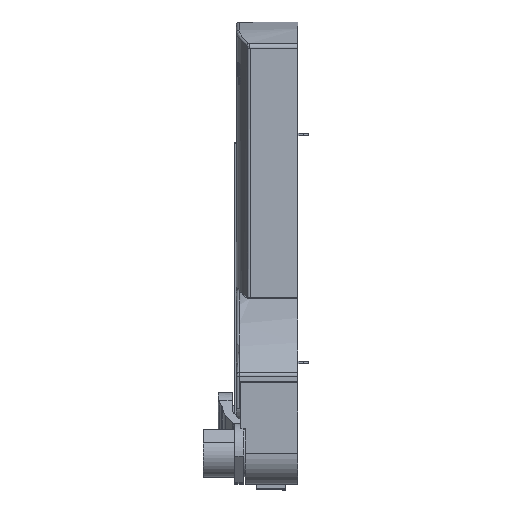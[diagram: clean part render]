
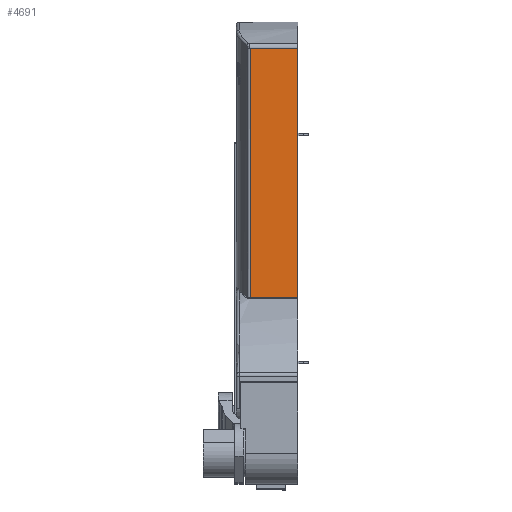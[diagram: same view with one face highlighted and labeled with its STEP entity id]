
A CAD part, top view. The second image highlights one B-rep face of the part: STEP entity #4691.
In plain terms, the highlighted planar face has unit normal (0, 0, 1).
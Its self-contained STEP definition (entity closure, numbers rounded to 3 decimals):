
#677 = CARTESIAN_POINT ( 'NONE',  ( -53., 101.957, 24.257 ) ) ;
#684 = FACE_OUTER_BOUND ( 'NONE', #11448, .T. ) ;
#685 = PLANE ( 'NONE',  #2857 ) ;
#688 = DIRECTION ( 'NONE',  ( 0., 0., -1. ) ) ;
#689 = DIRECTION ( 'NONE',  ( 1., 0., 0. ) ) ;
#1046 = EDGE_CURVE ( 'NONE', #4341, #12749, #8725, .T. ) ;
#1047 = EDGE_CURVE ( 'NONE', #4344, #4341, #8716, .T. ) ;
#1048 = EDGE_CURVE ( 'NONE', #12758, #4344, #8732, .T. ) ;
#1575 = LINE ( 'NONE', #1576, #18100 ) ;
#1576 = CARTESIAN_POINT ( 'NONE',  ( 0., 101.957, 24.257 ) ) ;
#1583 = DIRECTION ( 'NONE',  ( 0., -1., 0. ) ) ;
#2857 = AXIS2_PLACEMENT_3D ( 'NONE', #677, #688, #689 ) ;
#4341 = VERTEX_POINT ( 'NONE', #20551 ) ;
#4344 = VERTEX_POINT ( 'NONE', #20554 ) ;
#4691 = ADVANCED_FACE ( 'NONE', ( #684 ), #685, .F. ) ;
#8716 = LINE ( 'NONE', #8735, #14316 ) ;
#8725 = LINE ( 'NONE', #8727, #14314 ) ;
#8727 = CARTESIAN_POINT ( 'NONE',  ( -53., 208.25, 24.257 ) ) ;
#8732 = LINE ( 'NONE', #8738, #14313 ) ;
#8734 = DIRECTION ( 'NONE',  ( 1., 0., 0. ) ) ;
#8735 = CARTESIAN_POINT ( 'NONE',  ( -26.858, 101.957, 24.257 ) ) ;
#8737 = DIRECTION ( 'NONE',  ( 0., 1., 0. ) ) ;
#8738 = CARTESIAN_POINT ( 'NONE',  ( -26.858, 68.229, 24.257 ) ) ;
#8739 = DIRECTION ( 'NONE',  ( -1., 0., 0. ) ) ;
#9771 = ORIENTED_EDGE ( 'NONE', *, *, #14597, .F. ) ;
#9772 = ORIENTED_EDGE ( 'NONE', *, *, #1046, .F. ) ;
#9773 = ORIENTED_EDGE ( 'NONE', *, *, #1047, .F. ) ;
#9774 = ORIENTED_EDGE ( 'NONE', *, *, #1048, .F. ) ;
#11448 = EDGE_LOOP ( 'NONE', ( #9771, #9772, #9773, #9774 ) ) ;
#12749 = VERTEX_POINT ( 'NONE', #15997 ) ;
#12758 = VERTEX_POINT ( 'NONE', #16006 ) ;
#14313 = VECTOR ( 'NONE', #8739, 1000. ) ;
#14314 = VECTOR ( 'NONE', #8734, 1000. ) ;
#14316 = VECTOR ( 'NONE', #8737, 1000. ) ;
#14597 = EDGE_CURVE ( 'NONE', #12749, #12758, #1575, .T. ) ;
#15997 = CARTESIAN_POINT ( 'NONE',  ( 0., 208.25, 24.257 ) ) ;
#16006 = CARTESIAN_POINT ( 'NONE',  ( 0., 68.229, 24.257 ) ) ;
#18100 = VECTOR ( 'NONE', #1583, 1000. ) ;
#20551 = CARTESIAN_POINT ( 'NONE',  ( -26.858, 208.25, 24.257 ) ) ;
#20554 = CARTESIAN_POINT ( 'NONE',  ( -26.858, 68.229, 24.257 ) ) ;
